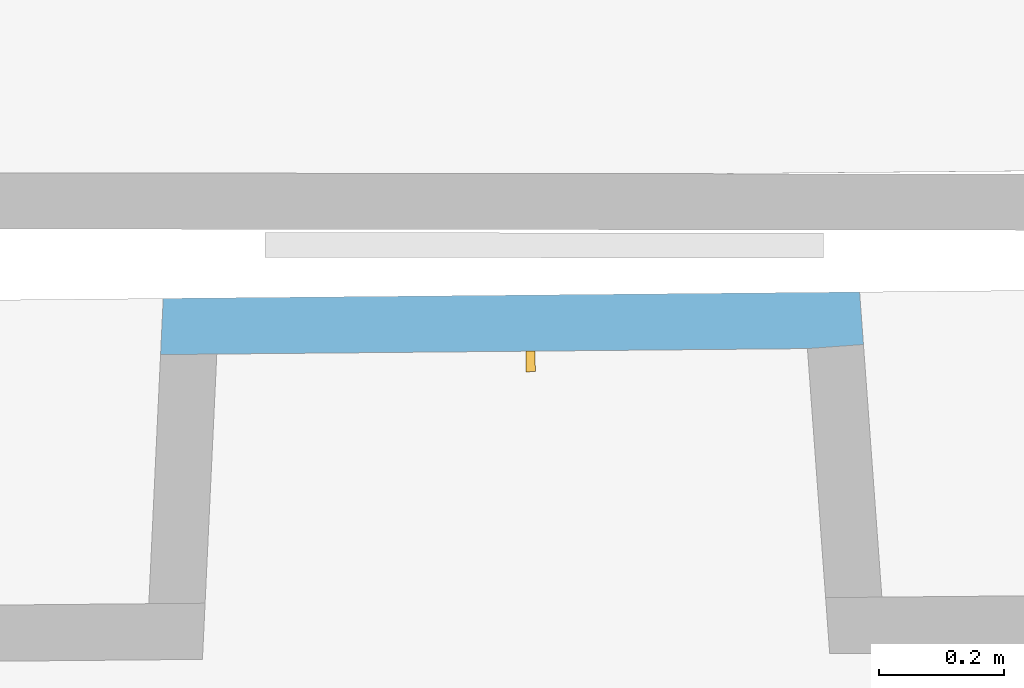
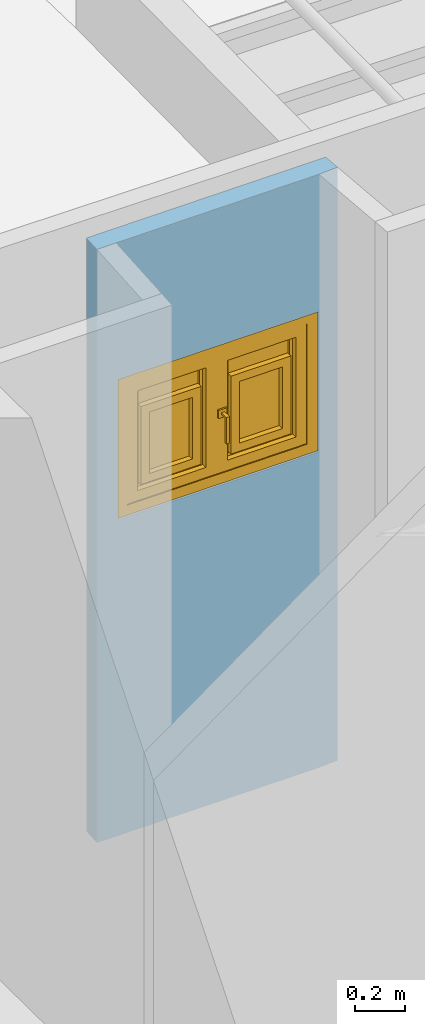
# One storey, part 105 of 133: 1 window, 1 opening, plus 1 element that does not belong to this part.
"""IFC2X3 building model written with IfcOpenShell, lengths in centimetres."""

import ifcopenshell
import ifcopenshell.guid

model = None  # the IFC model being written
_history = None  # IfcOwnerHistory: only IFC2X3 demands one
_inside = {}  # id of a spatial element -> (the spatial element, [elements in it])
_under = {}  # id of a project, library or spatial element -> (it, [spatial elements below it])
_declared = {}  # id of a project -> (the project, [libraries it declares])
_typed = {}  # id of a type object -> (the type object, [elements of that type])
_made_of = {}  # id of a material, layer set ... -> (it, [elements and type objects made of it])


def new_model(schema):
    """Start an empty IFC model of exactly this schema.

    Asked for "IFC4X3", IfcOpenShell would pick the latest addendum, in which some entities
    have other attributes; the version numbers below select the first issue.
    IFC2X3 requires an IfcOwnerHistory on every rooted entity: one is made here for all.
    """
    global model, _history
    if schema == "IFC4X3":
        model = ifcopenshell.file(schema_version=(4, 3, 0, 0))
    else:
        model = ifcopenshell.file(schema=schema)
    _inside.clear()
    _under.clear()
    _declared.clear()
    _typed.clear()
    _made_of.clear()
    _history = None
    if model.schema == "IFC2X3":
        org = make("IfcOrganization", Name="unknown")
        user = make(
            "IfcPersonAndOrganization",
            ThePerson=make("IfcPerson", FamilyName="unknown"),
            TheOrganization=org,
        )
        app = make(
            "IfcApplication",
            ApplicationDeveloper=org,
            Version="unknown",
            ApplicationFullName="unknown",
            ApplicationIdentifier="unknown",
        )
        _history = make(
            "IfcOwnerHistory",
            OwningUser=user,
            OwningApplication=app,
            ChangeAction="ADDED",
            CreationDate=0,
        )
    return model


def make(cls, **values):
    """One entity of the class cls with the attributes given. An attribute that is None is left unset."""
    return model.create_entity(
        cls, **{name: value for name, value in values.items() if value is not None}
    )


def entity(cls, *values):
    """Any entity or typed value of the class cls, its attributes in the order of the schema. None: left unset."""
    e = model.create_entity(cls)
    for i, value in enumerate(values):
        if value is not None:
            e[i] = value
    return e


def rooted(cls, **values):
    """An entity with a GlobalId (a new one), such as an element, a storey or a relation."""
    return make(cls, GlobalId=ifcopenshell.guid.new(), OwnerHistory=_history, **values)


def si_unit(unit_type, name, prefix=None):
    """IfcSIUnit, for example si_unit("LENGTHUNIT", "METRE", prefix="MILLI")."""
    return make("IfcSIUnit", UnitType=unit_type, Prefix=prefix, Name=name)


def converted_unit(unit_type, name, factor, base, dimensions=None, offset=None):
    """IfcConversionBasedUnit, such as the inch: factor (a typed value) times the base unit."""
    return make(
        "IfcConversionBasedUnit"
        if offset is None
        else "IfcConversionBasedUnitWithOffset",
        ConversionOffset=offset,
        Dimensions=None
        if dimensions is None
        else entity("IfcDimensionalExponents", *dimensions),
        UnitType=unit_type,
        Name=name,
        ConversionFactor=make(
            "IfcMeasureWithUnit", ValueComponent=factor, UnitComponent=base
        ),
    )


def assignment(units):
    """IfcUnitAssignment: the units of a project."""
    return None if units is None else make("IfcUnitAssignment", Units=units)


def point(xyz):
    """IfcCartesianPoint."""
    return None if xyz is None else make("IfcCartesianPoint", Coordinates=xyz)


def direction(xyz):
    """IfcDirection."""
    return None if xyz is None else make("IfcDirection", DirectionRatios=xyz)


def frame(location, z_axis=None, x_axis=None):
    """IfcAxis2Placement3D, a coordinate frame: its origin and axes. An axis left out is left unset."""
    return make(
        "IfcAxis2Placement3D",
        Location=point(location),
        Axis=direction(z_axis),
        RefDirection=direction(x_axis),
    )


def origin():
    """The frame at (0, 0, 0) with its axes left unset."""
    return frame((0.0, 0.0, 0.0))


def origin_with_axes():
    """The frame at (0, 0, 0) with the z axis (0, 0, 1) and the x axis (1, 0, 0) written out."""
    return frame((0.0, 0.0, 0.0), z_axis=(0.0, 0.0, 1.0), x_axis=(1.0, 0.0, 0.0))


def place(relative_to, where):
    """IfcLocalPlacement: puts the frame where relative to a parent placement (None: the world)."""
    return make(
        "IfcLocalPlacement", PlacementRelTo=relative_to, RelativePlacement=where
    )


def context(
    kind, dimensions, precision=None, world=None, true_north=None, identifier=None
):
    """IfcGeometricRepresentationContext, for example the 3D "Model" context."""
    return make(
        "IfcGeometricRepresentationContext",
        ContextIdentifier=identifier,
        ContextType=kind,
        CoordinateSpaceDimension=dimensions,
        Precision=precision,
        WorldCoordinateSystem=world,
        TrueNorth=true_north,
    )


def subcontext(parent, identifier, kind, view, scale=None):
    """IfcGeometricRepresentationSubContext, for example "Body" below "Model"."""
    return make(
        "IfcGeometricRepresentationSubContext",
        ContextIdentifier=identifier,
        ContextType=kind,
        ParentContext=parent,
        TargetScale=scale,
        TargetView=view,
    )


def project(units=None, contexts=None):
    """IfcProject with its units and contexts."""
    return rooted(
        "IfcProject",
        Name="project",
        RepresentationContexts=contexts,
        UnitsInContext=assignment(units),
    )


def spatial(cls, under=None, at=None, **own):
    """A site, building, storey or space (cls), placed at a placement, below another one or the project."""
    s = rooted(cls, ObjectPlacement=at, **own)
    if under is not None:
        _under.setdefault(under.id(), (under, []))[1].append(s)
    return s


def polyline(points):
    """IfcPolyline through the points."""
    return make("IfcPolyline", Points=[point(p) for p in points])


def outline(outer, holes=None, kind="AREA"):
    """IfcArbitraryClosedProfileDef: a profile drawn as a closed curve; with holes, ...WithVoids."""
    if holes is None:
        return make("IfcArbitraryClosedProfileDef", ProfileType=kind, OuterCurve=outer)
    return make(
        "IfcArbitraryProfileDefWithVoids",
        ProfileType=kind,
        OuterCurve=outer,
        InnerCurves=holes,
    )


def extrude(swept, where, along, depth):
    """IfcExtrudedAreaSolid: the profile swept, set in the frame where, extruded along a direction by depth."""
    return make(
        "IfcExtrudedAreaSolid",
        SweptArea=swept,
        Position=where,
        ExtrudedDirection=direction(along),
        Depth=depth,
    )


def faces_of(points, faces, orient=None, outer=None):
    """IfcFace entities. A face is a list of loops; a loop is a list of indices into points, from 0.

    orient and outer hold one flag for each loop. By default every Orientation is true, the
    first loop of a face is its IfcFaceOuterBound and the others are IfcFaceBound.
    """
    made = []
    for i, loops in enumerate(faces):
        bounds = []
        for j, loop in enumerate(loops):
            is_outer = j == 0 if outer is None else outer[i][j]
            bounds.append(
                make(
                    "IfcFaceOuterBound" if is_outer else "IfcFaceBound",
                    Bound=make("IfcPolyLoop", Polygon=[points[k] for k in loop]),
                    Orientation=True if orient is None else orient[i][j],
                )
            )
        made.append(make("IfcFace", Bounds=bounds))
    return made


def faceted_brep(points, faces, orient=None, outer=None, voids=None):
    """IfcFacetedBrep: a solid bounded by flat faces; with voids (closed shells), ...WithVoids."""
    shared = [point(p) for p in points]
    hull = make("IfcClosedShell", CfsFaces=faces_of(shared, faces, orient, outer))
    if voids is None:
        return make("IfcFacetedBrep", Outer=hull)
    return make(
        "IfcFacetedBrepWithVoids",
        Outer=hull,
        Voids=[
            make(cls, CfsFaces=faces_of(shared, fs, o, b)) for cls, fs, o, b in voids
        ],
    )


def shape(context_of_items, identifier, shape_type, items):
    """IfcShapeRepresentation: the items that make up one representation, for example the "Body"."""
    return make(
        "IfcShapeRepresentation",
        ContextOfItems=context_of_items,
        RepresentationIdentifier=identifier,
        RepresentationType=shape_type,
        Items=items,
    )


def source(mapping_origin, context_of_items, identifier, shape_type, items):
    """IfcRepresentationMap: a shape defined once, which mapped items show again and again."""
    return make(
        "IfcRepresentationMap",
        MappingOrigin=mapping_origin,
        MappedRepresentation=shape(context_of_items, identifier, shape_type, items),
    )


def transform(
    local_origin,
    x_axis=None,
    y_axis=None,
    z_axis=None,
    scale=None,
    scale2=None,
    scale3=None,
    uniform=True,
):
    """IfcCartesianTransformationOperator3D, or its non-uniform kind. x_axis, y_axis, z_axis: its Axis1, 2, 3."""
    if uniform:
        return make(
            "IfcCartesianTransformationOperator3D",
            Axis1=direction(x_axis),
            Axis2=direction(y_axis),
            LocalOrigin=point(local_origin),
            Scale=scale,
            Axis3=direction(z_axis),
        )
    return make(
        "IfcCartesianTransformationOperator3DnonUniform",
        Axis1=direction(x_axis),
        Axis2=direction(y_axis),
        LocalOrigin=point(local_origin),
        Scale=scale,
        Axis3=direction(z_axis),
        Scale2=scale2,
        Scale3=scale3,
    )


def mapped(mapping_source, mapping_target):
    """IfcMappedItem: shows the shape of a source again, moved by a transform."""
    return make(
        "IfcMappedItem", MappingSource=mapping_source, MappingTarget=mapping_target
    )


def material(Name=None, Category=None):
    """IfcMaterial."""
    return make("IfcMaterial", Name=Name, Category=Category)


def material_list(materials):
    """IfcMaterialList."""
    return make("IfcMaterialList", Materials=materials)


def layer(
    of_material, thickness, ventilated=None, Name=None, Category=None, Priority=None
):
    """IfcMaterialLayer: one layer of a wall or slab, of a material (None: an air gap)."""
    return make(
        "IfcMaterialLayer",
        Material=of_material,
        LayerThickness=thickness,
        IsVentilated=ventilated,
        Name=Name,
        Category=Category,
        Priority=Priority,
    )


def layer_set(layers, Name=None):
    """IfcMaterialLayerSet."""
    return make("IfcMaterialLayerSet", MaterialLayers=layers, LayerSetName=Name)


def layer_usage(for_layer_set, set_direction, sense, offset, extent=None):
    """IfcMaterialLayerSetUsage: how a layer set lies in its element."""
    return make(
        "IfcMaterialLayerSetUsage",
        ForLayerSet=for_layer_set,
        LayerSetDirection=set_direction,
        DirectionSense=sense,
        OffsetFromReferenceLine=offset,
        ReferenceExtent=extent,
    )


def made_of(thing, what):
    """Note that an element or type object is made of a material, layer set ...; save() writes the relation."""
    if what is not None:
        _made_of.setdefault(what.id(), (what, []))[1].append(thing)
    return thing


def type_object(cls, material=None, **own):
    """A type object (cls), such as IfcWallType, which elements share."""
    return made_of(rooted(cls, **own), material)


def element(
    cls,
    number,
    at=None,
    inside=None,
    cuts=None,
    type_object=None,
    material=None,
    context=None,
    identifier="Body",
    shape_type=None,
    held_by="IfcProductDefinitionShape",
    body=None,
    shapes=None,
    **own,
):
    """One element of the class cls, such as IfcWall. Its Tag is "e" and its number.

    at: its placement. inside: the storey or other place that contains it. cuts: it is an
    opening in that element (IfcRelVoidsElement). A single representation is given by context,
    identifier, shape_type and body (its items); several are given by shapes. held_by: the class
    of the entity that holds the representations. save() writes the other relations.
    """
    e = rooted(cls, Tag="e%d" % number, ObjectPlacement=at, **own)
    if body is not None:
        shapes = [shape(context, identifier, shape_type, body)]
    if shapes is not None:
        e.Representation = make(held_by, Representations=shapes)
    if inside is not None:
        _inside.setdefault(inside.id(), (inside, []))[1].append(e)
    if cuts is not None:
        rooted(
            "IfcRelVoidsElement", RelatingBuildingElement=cuts, RelatedOpeningElement=e
        )
    if type_object is not None:
        _typed.setdefault(type_object.id(), (type_object, []))[1].append(e)
    return made_of(e, material)


def fill(opening, filler):
    """IfcRelFillsElement: the door or window that sits in an opening."""
    return rooted(
        "IfcRelFillsElement",
        RelatingOpeningElement=opening,
        RelatedBuildingElement=filler,
    )


def aggregate(whole, parts):
    """IfcRelAggregates: a whole, such as a stair, and the parts it consists of."""
    return rooted("IfcRelAggregates", RelatingObject=whole, RelatedObjects=parts)


def save(model, path):
    """Write the relations noted so far, then the file.

    IfcRelAggregates (storeys below a building ...), IfcRelContainedInSpatialStructure (elements
    in a storey), IfcRelDefinesByType, IfcRelAssociatesMaterial and IfcRelDeclares: one each for
    every whole, place, type object, material and project.
    """
    for whole, parts in _under.values():
        aggregate(whole, parts)
    for where, things in _inside.values():
        rooted(
            "IfcRelContainedInSpatialStructure",
            RelatedElements=things,
            RelatingStructure=where,
        )
    for kind, things in _typed.values():
        rooted("IfcRelDefinesByType", RelatedObjects=things, RelatingType=kind)
    for what, things in _made_of.values():
        rooted("IfcRelAssociatesMaterial", RelatedObjects=things, RelatingMaterial=what)
    for by, libraries in _declared.values():
        rooted("IfcRelDeclares", RelatingContext=by, RelatedDefinitions=libraries)
    model.write(path)


model = new_model("IFC2X3")

# Units and contexts
model_context = context("Model", 3, precision=0.0001, world=origin(), true_north=direction((0.225632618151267, 0.974212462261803, 0.0)))
body_context = subcontext(model_context, "Body", "Model", "MODEL_VIEW")
footprint_context = subcontext(model_context, "FootPrint", "Model", "MODEL_VIEW")
profile_context = subcontext(model_context, "Profile", "Model", "MODEL_VIEW")
ifc_project = project(units=[si_unit("LENGTHUNIT", "METRE", prefix="CENTI"), si_unit("AREAUNIT", "SQUARE_METRE", prefix="CENTI"), si_unit("VOLUMEUNIT", "CUBIC_METRE", prefix="CENTI"), converted_unit("PLANEANGLEUNIT", "DEGREE", entity("IfcRatioMeasure", 0.0174532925), si_unit("PLANEANGLEUNIT", "RADIAN"), dimensions=[0, 0, 0, 0, 0, 0, 0])], contexts=[model_context])

# Site, building, storey
site_placement = place(None, origin_with_axes())
site = spatial("IfcSite", under=ifc_project, at=site_placement, Name="Default Site", CompositionType="ELEMENT")
building_placement = place(site_placement, origin_with_axes())
building = spatial("IfcBuilding", under=site, at=building_placement, Name="Default Building", CompositionType="ELEMENT")
storey_placement = place(building_placement, frame((0.0, 0.0, -291.400371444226), z_axis=(0.0, 0.0, 1.0), x_axis=(1.0, 0.0, 0.0)))
storey = spatial("IfcBuildingStorey", under=building, at=storey_placement, Name="Rez-de-Jardin", CompositionType="ELEMENT", Elevation=-291.400371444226)

# Wall, opening, window
ifc_material_1 = material(Name="<aucun>")
ifc_layer = layer(ifc_material_1, 9.0)
ifc_layer_set = layer_set([ifc_layer], Name="default")
ifc_layer_usage = layer_usage(ifc_layer_set, "AXIS2", "POSITIVE", -4.5)
wall_type = type_object("IfcWallType", Name="default 90", PredefinedType="NOTDEFINED", material=ifc_layer_set)
wall_placement = place(storey_placement, frame((-561.157868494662, 594.677740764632, -1.94511073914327e-11), z_axis=(0.0, 0.0, 1.0), x_axis=(0.99995701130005, 0.00927230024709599, 0.0)))
wall = element("IfcWallStandardCase", 1, at=wall_placement, inside=storey, type_object=wall_type, material=ifc_layer_usage, Name="Enveloppe 579508", context=body_context, shape_type="SweptSolid", body=[
    extrude(outline(polyline([(-4.76066961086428, -4.50000000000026), (98.9491253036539, -4.49999999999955), (107.930924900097, -3.92791957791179), (107.394122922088, 4.50000000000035), (-4.25360330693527, 4.49999999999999), (-4.76066961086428, -4.50000000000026)])), frame((0.0, 0.0, 1.33226762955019e-13), z_axis=(0.0, 0.0, 1.0), x_axis=(1.0, 0.0, 0.0)), (0.0, 0.0, 1.0), 291.413221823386),
])
opening_placement = place(wall_placement, frame((5.01066961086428, 1.13686837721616e-13, 155.000000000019), z_axis=(0.0, 0.0, 1.0), x_axis=(-1.0, -4.15292800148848e-15, 0.0)))
cartesian_point_1 = entity("IfcCartesianPoint", [0.0, 0.0, 69.0])
cartesian_point_2 = entity("IfcCartesianPoint", [-94.0555910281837, -4.49999999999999])
opening = element("IfcOpeningElement", 2, at=opening_placement, cuts=wall, Name="4294966466_11", ObjectType="Opening", shapes=[
    shape(body_context, "Body", "SweptSolid", [extrude(outline(polyline([(8.88178419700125e-14, 69.0), (8.88178419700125e-14, 0.0), (94.0555910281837, 0.0), (94.0555910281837, 69.0), (8.88178419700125e-14, 69.0)])), frame((0.0, -14.5, 0.0), z_axis=(0.0, 1.0, 0.0), x_axis=(-1.0, 0.0, 0.0)), (0.0, 0.0, 1.0), 29.0)]),
    shape(profile_context, "Profile", "GeometricCurveSet", [entity("IfcGeometricCurveSet", [entity("IfcPolyline", [cartesian_point_1, entity("IfcCartesianPoint", [0.0, 0.0, 0.0]), entity("IfcCartesianPoint", [-94.0555910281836, 0.0, 0.0]), entity("IfcCartesianPoint", [-94.0555910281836, 0.0, 69.0]), cartesian_point_1])])]),
    shape(footprint_context, "FootPrint", "GeometricCurveSet", [entity("IfcGeometricCurveSet", [entity("IfcPolyline", [cartesian_point_2, entity("IfcCartesianPoint", [-8.88178419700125e-14, -4.49999999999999]), entity("IfcCartesianPoint", [0.0, 4.49999999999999]), entity("IfcCartesianPoint", [-94.0555910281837, 4.49999999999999]), cartesian_point_2])])]),
])
ifc_material_2 = material(Name="Transparent")
ifc_material_3 = material(Name="Blanc trafic")
ifc_material_4 = material(Name="Aluminium satiné")
ifc_material_list = material_list([ifc_material_2, ifc_material_3, ifc_material_4])
window_style = type_object("IfcWindowStyle", Name="FN[R] 2VB[1V] MM", ConstructionType="NOTDEFINED", OperationType="NOTDEFINED", ParameterTakesPrecedence=False, Sizeable=False, material=ifc_material_list)
shared_shape = source(origin_with_axes(), body_context, "Body", "Brep", [
    faceted_brep([(-42.0277953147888, 63.9999985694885, -3.99999991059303), (-42.0277953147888, 63.9999985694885, 3.99999991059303), (-42.0277953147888, 5.00000007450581, 3.99999991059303), (-42.0277953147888, 5.00000007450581, -3.99999991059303), (-47.0277965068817, 68.9999997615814, 3.99999991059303), (-47.0277965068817, 0.0, 3.99999991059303), (-47.0277965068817, 68.9999997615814, -3.99999991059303), (-47.0277965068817, 4.4659245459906e-31, -3.99999991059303), (-47.0277965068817, 4.4659245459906e-31, 3.99999991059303), (-47.0277965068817, 0.0, -3.99999991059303), (42.0277953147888, 5.00000007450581, 3.99999991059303), (42.0277953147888, 5.00000007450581, -3.99999991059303), (47.0277965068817, 0.0, 3.99999991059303), (47.0277965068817, 0.0, -3.99999991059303), (42.0277953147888, 63.9999985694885, 3.99999991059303), (42.0277953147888, 63.9999985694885, -3.99999991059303), (47.0277965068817, 68.9999997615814, 3.99999991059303), (47.0277965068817, 68.9999997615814, -3.99999991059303)], [[[0, 1, 2, 3]], [[1, 4, 5, 2]], [[4, 6, 7, 8]], [[6, 0, 3, 9]], [[3, 2, 10, 11]], [[2, 5, 12, 10]], [[5, 9, 13, 12]], [[9, 3, 11, 13]], [[11, 10, 14, 15]], [[10, 12, 16, 14]], [[12, 13, 17, 16]], [[13, 11, 15, 17]], [[15, 14, 1, 0]], [[14, 16, 4, 1]], [[16, 17, 6, 4]], [[17, 15, 0, 6]]]),
    faceted_brep([(-38.0277961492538, 60.0000023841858, -3.50000001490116), (-37.0277951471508, 58.9999973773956, -2.49999901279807), (-37.0277951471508, 10.0000001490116, -2.49999901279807), (-38.0277961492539, 9.00000035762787, -3.50000001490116), (-37.0277941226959, 58.9999973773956, -2.5000000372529), (-37.0277941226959, 58.9999973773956, 3.50000001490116), (-37.0277941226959, 10.0000001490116, 3.50000001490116), (-37.0277941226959, 10.0000001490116, -2.5000000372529), (-42.0277953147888, 63.9999985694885, 3.50000001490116), (-42.0277953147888, 5.00000007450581, 3.50000001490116), (-42.0277953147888, 63.9999985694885, -3.50000001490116), (-42.0277953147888, 5.00000007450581, -3.50000001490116), (-37.0277941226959, 10.0000002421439, -2.50000013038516), (-5.00000007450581, 10.0000002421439, -2.50000013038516), (-3.99999991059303, 9.00000035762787, -3.50000001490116), (-5.00000007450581, 10.0000001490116, 3.50000001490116), (-5.00000007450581, 10.0000001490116, -2.5000000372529), (-1.66533453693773e-14, 5.00000007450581, 3.50000001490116), (-1.66533453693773e-14, 5.00000007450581, -3.50000001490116), (-4.99999998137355, 10.0000001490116, -2.49999994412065), (-4.99999998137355, 58.9999973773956, -2.49999994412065), (-3.99999991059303, 60.0000023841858, -3.50000001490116), (-5.00000007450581, 58.9999973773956, 3.50000001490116), (-5.00000007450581, 58.9999973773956, -2.5000000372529), (-1.11022302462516e-14, 63.9999985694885, 3.50000001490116), (-1.11022302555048e-14, 63.9999985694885, -3.50000001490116), (-1.11022302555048e-14, 63.9999985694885, 3.50000001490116), (-1.11022302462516e-14, 63.9999985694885, -3.50000001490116), (-5.00000007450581, 58.9999998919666, -2.49999752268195), (-37.0277941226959, 58.9999998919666, -2.49999752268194), (-38.0277961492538, 60.0000023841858, -3.50000001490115)], [[[0, 1, 2, 3]], [[4, 5, 6, 7]], [[5, 8, 9, 6]], [[8, 10, 11, 9]], [[10, 0, 3, 11]], [[3, 12, 13, 14]], [[7, 6, 15, 16]], [[6, 9, 17, 15]], [[9, 11, 18, 17]], [[11, 3, 14, 18]], [[14, 19, 20, 21]], [[16, 15, 22, 23]], [[15, 17, 24, 22]], [[17, 18, 25, 26]], [[18, 14, 21, 27]], [[21, 28, 29, 30]], [[23, 22, 5, 4]], [[22, 24, 8, 5]], [[24, 27, 10, 8]], [[27, 21, 0, 10]]]),
    faceted_brep([(-35.5277955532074, 57.4999988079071, -0.999999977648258), (-35.0277957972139, 56.9999992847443, -0.500000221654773), (-35.0277957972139, 11.9999997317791, -0.500000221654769), (-35.5277955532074, 11.5000002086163, -0.999999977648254), (-35.0277960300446, 56.9999992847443, -0.499999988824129), (-35.0277960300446, 56.9999992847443, 0.499999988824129), (-35.0277960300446, 11.9999997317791, 0.499999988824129), (-35.0277960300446, 11.9999997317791, -0.499999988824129), (-35.527795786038, 57.4999988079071, 0.999999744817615), (-35.527795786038, 11.5000002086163, 0.999999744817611), (-35.0277960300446, 11.9999997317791, 0.499999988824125), (-35.5277955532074, 57.4999988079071, 0.999999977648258), (-37.0277941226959, 58.9999973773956, 0.999999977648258), (-37.0277941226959, 10.0000001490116, 0.999999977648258), (-35.5277955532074, 11.5000002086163, 0.999999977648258), (-37.0277941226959, 58.9999973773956, -0.999999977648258), (-37.0277941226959, 10.0000001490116, -0.999999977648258), (-35.5277955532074, 11.5000002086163, -0.999999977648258), (-35.0277960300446, 11.9999999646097, -0.500000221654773), (-7.00000002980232, 11.9999999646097, -0.500000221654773), (-6.49999976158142, 11.5000002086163, -0.999999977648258), (-7.00000002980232, 11.9999997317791, 0.499999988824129), (-7.00000002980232, 11.9999997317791, -0.499999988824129), (-35.5277955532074, 11.4999999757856, 0.999999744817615), (-6.49999976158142, 11.4999999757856, 0.999999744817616), (-7.00000002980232, 11.9999997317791, 0.499999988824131), (-5.00000007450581, 10.0000001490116, 0.999999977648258), (-6.49999976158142, 11.5000002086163, 0.999999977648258), (-5.00000007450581, 10.0000001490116, -0.999999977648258), (-6.99999989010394, 11.9999997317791, -0.499999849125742), (-6.99999989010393, 56.9999992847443, -0.49999984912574), (-6.49999976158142, 57.4999988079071, -0.999999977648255), (-7.00000002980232, 56.9999992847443, 0.499999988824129), (-7.00000002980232, 56.9999992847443, -0.499999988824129), (-6.49999990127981, 11.5000002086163, 1.00000011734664), (-6.4999999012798, 57.4999988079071, 1.00000011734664), (-7.00000002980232, 56.9999992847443, 0.499999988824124), (-5.00000007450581, 58.9999973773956, 0.999999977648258), (-6.49999976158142, 57.4999988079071, 0.999999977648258), (-5.0000000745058, 58.9999973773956, -0.999999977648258), (-5.0000000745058, 58.9999973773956, 0.999999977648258), (-6.49999976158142, 57.4999988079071, -0.999999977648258), (-5.00000007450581, 58.9999973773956, -0.999999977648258), (-7.00000002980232, 56.9999990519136, -0.500000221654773), (-35.0277960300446, 56.9999990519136, -0.500000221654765), (-35.5277955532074, 57.4999988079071, -0.99999997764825), (-6.49999976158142, 57.4999990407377, 0.999999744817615), (-35.5277955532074, 57.4999990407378, 0.999999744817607), (-35.0277960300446, 56.9999992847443, 0.499999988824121)], [[[0, 1, 2, 3]], [[4, 5, 6, 7]], [[5, 8, 9, 10]], [[11, 12, 13, 14]], [[12, 15, 16, 13]], [[15, 0, 17, 16]], [[17, 18, 19, 20]], [[7, 6, 21, 22]], [[6, 23, 24, 25]], [[14, 13, 26, 27]], [[13, 16, 28, 26]], [[16, 17, 20, 28]], [[20, 29, 30, 31]], [[22, 21, 32, 33]], [[21, 34, 35, 36]], [[27, 26, 37, 38]], [[26, 28, 39, 40]], [[28, 20, 41, 42]], [[41, 43, 44, 45]], [[33, 32, 5, 4]], [[32, 46, 47, 48]], [[38, 37, 12, 11]], [[37, 42, 15, 12]], [[42, 41, 0, 15]]]),
    faceted_brep([(-7.00000002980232, 56.9999992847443, -0.499999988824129), (-7.00000002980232, 50.2499997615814, -0.499999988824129), (-35.0277960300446, 50.2499997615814, -0.499999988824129), (-35.0277960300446, 56.9999992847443, -0.499999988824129), (-35.0277960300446, 56.9999992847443, 0.499999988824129), (-35.0277960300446, 50.2499997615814, 0.499999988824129), (-7.00000002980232, 50.2499997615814, 0.499999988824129), (-7.00000002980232, 56.9999992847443, 0.499999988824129)], [[[0, 1, 2, 3]], [[4, 5, 6, 7]], [[3, 2, 5, 4]], [[2, 1, 6, 5]], [[1, 0, 7, 6]], [[0, 3, 4, 7]]]),
    faceted_brep([(-31.0277968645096, 46.2500005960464, -2.99999993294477), (-31.0277968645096, 46.2500005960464, 2.99999993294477), (-31.0277968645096, 15.9999996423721, 2.99999993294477), (-31.0277968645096, 15.9999996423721, -2.99999993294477), (-35.0277960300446, 50.2499997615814, 2.99999993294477), (-35.0277960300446, 11.9999997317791, 2.99999993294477), (-35.0277960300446, 50.2499997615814, -2.99999993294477), (-35.0277960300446, 11.9999997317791, -2.99999993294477), (-10.9999999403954, 15.9999996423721, 2.99999993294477), (-10.9999999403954, 15.9999996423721, -2.99999993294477), (-7.00000002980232, 11.9999997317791, 2.99999993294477), (-7.00000002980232, 11.9999997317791, -2.99999993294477), (-10.9999999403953, 46.2500005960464, 2.99999993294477), (-10.9999999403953, 46.2500005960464, -2.99999993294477), (-7.00000002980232, 50.2499997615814, 2.99999993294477), (-7.00000002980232, 50.2499997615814, -2.99999993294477)], [[[0, 1, 2, 3]], [[1, 4, 5, 2]], [[4, 6, 7, 5]], [[6, 0, 3, 7]], [[3, 2, 8, 9]], [[2, 5, 10, 8]], [[5, 7, 11, 10]], [[7, 3, 9, 11]], [[9, 8, 12, 13]], [[8, 10, 14, 12]], [[10, 11, 15, 14]], [[11, 9, 13, 15]], [[13, 12, 1, 0]], [[12, 14, 4, 1]], [[14, 15, 6, 4]], [[15, 13, 0, 6]]]),
    faceted_brep([(-10.9999999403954, 46.2500005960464, -0.499999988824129), (-10.9999999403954, 15.9999996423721, -0.499999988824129), (-31.0277968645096, 15.9999996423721, -0.499999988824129), (-31.0277968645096, 46.2500005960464, -0.499999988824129), (-31.0277968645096, 46.2500005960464, 0.499999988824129), (-31.0277968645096, 15.9999996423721, 0.499999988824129), (-10.9999999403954, 15.9999996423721, 0.499999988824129), (-10.9999999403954, 46.2500005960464, 0.499999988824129)], [[[0, 1, 2, 3]], [[4, 5, 6, 7]], [[3, 2, 5, 4]], [[2, 1, 6, 5]], [[1, 0, 7, 6]], [[0, 3, 4, 7]]]),
    faceted_brep([(3.99999991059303, 60.0000023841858, -3.50000001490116), (4.99999998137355, 58.9999973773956, -2.49999994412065), (4.99999998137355, 10.0000001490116, -2.49999994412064), (3.99999991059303, 9.00000035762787, -3.50000001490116), (5.00000007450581, 58.9999973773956, -2.5000000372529), (5.00000007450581, 58.9999973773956, 3.50000001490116), (5.0000000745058, 10.0000001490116, 3.50000001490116), (5.0000000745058, 10.0000001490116, -2.5000000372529), (-1.11022302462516e-14, 63.9999985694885, 3.50000001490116), (-1.66533453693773e-14, 5.00000007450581, 3.50000001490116), (5.00000007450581, 10.0000001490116, 3.50000001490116), (-1.11022302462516e-14, 63.9999985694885, -3.50000001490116), (-1.66533453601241e-14, 5.00000007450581, -3.50000001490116), (-1.66533453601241e-14, 5.00000007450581, 3.50000001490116), (-1.66533453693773e-14, 5.00000007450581, -3.50000001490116), (5.00000007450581, 10.0000002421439, -2.50000013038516), (37.0277941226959, 10.0000002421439, -2.50000013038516), (38.0277961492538, 9.00000035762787, -3.50000001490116), (5.00000007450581, 10.0000001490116, -2.5000000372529), (37.0277941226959, 10.0000001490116, 3.50000001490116), (37.0277941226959, 10.0000001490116, -2.5000000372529), (42.0277953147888, 5.00000007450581, 3.50000001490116), (42.0277953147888, 5.00000007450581, -3.50000001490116), (37.0277951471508, 10.0000001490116, -2.49999901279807), (37.0277951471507, 58.9999973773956, -2.49999901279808), (38.0277961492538, 60.0000023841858, -3.50000001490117), (37.0277941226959, 58.9999973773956, 3.50000001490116), (37.0277941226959, 58.9999973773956, -2.5000000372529), (42.0277953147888, 63.9999985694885, 3.50000001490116), (42.0277953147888, 63.9999985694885, -3.50000001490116), (38.0277961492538, 60.0000023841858, -3.50000001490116), (37.0277941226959, 58.9999998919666, -2.49999752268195), (5.00000007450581, 58.9999998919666, -2.49999752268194), (3.99999991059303, 60.0000023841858, -3.50000001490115)], [[[0, 1, 2, 3]], [[4, 5, 6, 7]], [[5, 8, 9, 10]], [[8, 11, 12, 13]], [[11, 0, 3, 14]], [[3, 15, 16, 17]], [[18, 10, 19, 20]], [[10, 9, 21, 19]], [[9, 14, 22, 21]], [[14, 3, 17, 22]], [[17, 23, 24, 25]], [[20, 19, 26, 27]], [[19, 21, 28, 26]], [[21, 22, 29, 28]], [[22, 17, 30, 29]], [[30, 31, 32, 33]], [[27, 26, 5, 4]], [[26, 28, 8, 5]], [[28, 29, 11, 8]], [[29, 30, 0, 11]]]),
    faceted_brep([(4.50000017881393, 36.5000009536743, 3.50000001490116), (4.50000017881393, 32.4999988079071, 3.50000001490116), (0.499999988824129, 32.4999988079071, 3.50000001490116), (0.499999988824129, 36.5000009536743, 3.50000001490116), (0.499999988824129, 36.5000009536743, 4.30000014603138), (0.499999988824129, 32.4999988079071, 4.30000014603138), (4.50000017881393, 32.4999988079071, 4.30000014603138), (4.50000017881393, 36.5000009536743, 4.30000014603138)], [[[0, 1, 2, 3]], [[4, 5, 6, 7]], [[3, 2, 5, 4]], [[2, 1, 6, 5]], [[1, 0, 7, 6]], [[0, 3, 4, 7]]]),
    faceted_brep([(3.24999988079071, 34.9999994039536, 4.30000014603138), (3.24999988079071, 34.0000003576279, 4.30000014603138), (1.75000000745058, 34.0000003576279, 4.30000014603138), (1.75000000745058, 34.9999994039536, 4.30000014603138), (1.75000000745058, 34.9999994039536, 8.29999968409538), (1.75000000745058, 33.9999999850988, 7.30000026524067), (3.24999988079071, 33.9999999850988, 7.30000026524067), (3.24999988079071, 34.9999994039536, 8.29999968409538), (1.75000000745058, 34.0000003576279, 7.29999989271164), (3.24999988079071, 34.0000003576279, 7.29999989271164)], [[[0, 1, 2, 3]], [[4, 5, 6, 7]], [[3, 2, 8, 4]], [[2, 1, 9, 8]], [[1, 0, 7, 9]], [[0, 3, 4, 7]]]),
    faceted_brep([(3.24999988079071, 34.9999994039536, 8.29999968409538), (3.24999988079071, 33.9999999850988, 7.30000026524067), (1.75000000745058, 33.9999999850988, 7.30000026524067), (1.75000000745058, 34.9999994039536, 8.29999968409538), (1.75000000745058, 21.9999998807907, 8.29999968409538), (1.75000000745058, 21.9999998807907, 7.29999989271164), (3.24999988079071, 21.9999998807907, 7.29999989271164), (3.24999988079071, 21.9999998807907, 8.29999968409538), (1.75000000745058, 34.0000003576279, 7.29999989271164), (3.24999988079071, 34.0000003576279, 7.29999989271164)], [[[0, 1, 2, 3]], [[4, 5, 6, 7]], [[3, 8, 5, 4]], [[8, 9, 6, 5]], [[9, 0, 7, 6]], [[0, 3, 4, 7]]]),
    faceted_brep([(6.49999976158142, 57.4999988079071, -0.999999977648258), (6.99999989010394, 56.9999992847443, -0.499999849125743), (6.99999989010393, 11.9999997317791, -0.49999984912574), (6.49999976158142, 11.5000002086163, -0.999999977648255), (7.00000002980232, 56.9999992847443, -0.499999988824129), (7.00000002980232, 56.9999992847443, 0.499999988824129), (7.00000002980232, 11.9999997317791, 0.499999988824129), (7.00000002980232, 11.9999997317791, -0.499999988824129), (6.49999990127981, 57.4999988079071, 1.00000011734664), (6.4999999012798, 11.5000002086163, 1.00000011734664), (7.00000002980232, 11.9999997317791, 0.499999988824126), (6.49999976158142, 57.4999988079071, 0.999999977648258), (5.00000007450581, 58.9999973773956, 0.999999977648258), (5.00000007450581, 10.0000001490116, 0.999999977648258), (6.49999976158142, 11.5000002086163, 0.999999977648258), (5.00000007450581, 58.9999973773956, -0.999999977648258), (5.0000000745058, 10.0000001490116, -0.999999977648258), (5.0000000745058, 10.0000001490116, 0.999999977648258), (6.49999976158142, 11.5000002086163, -0.999999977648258), (5.00000007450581, 10.0000001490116, -0.999999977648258), (7.00000002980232, 11.9999999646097, -0.500000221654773), (35.0277960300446, 11.9999999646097, -0.500000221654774), (35.5277955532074, 11.5000002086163, -0.999999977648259), (35.0277960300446, 11.9999997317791, 0.499999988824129), (35.0277960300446, 11.9999997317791, -0.499999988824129), (6.49999976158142, 11.4999999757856, 0.999999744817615), (35.5277955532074, 11.4999999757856, 0.999999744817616), (35.0277960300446, 11.9999997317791, 0.499999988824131), (37.0277941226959, 10.0000001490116, 0.999999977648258), (35.5277955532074, 11.5000002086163, 0.999999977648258), (37.0277941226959, 10.0000001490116, -0.999999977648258), (35.5277955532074, 11.5000002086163, -0.999999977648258), (35.0277957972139, 11.9999997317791, -0.500000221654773), (35.0277957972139, 56.9999992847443, -0.500000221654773), (35.5277955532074, 57.4999988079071, -0.999999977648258), (35.0277960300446, 56.9999992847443, 0.499999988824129), (35.0277960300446, 56.9999992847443, -0.499999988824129), (35.527795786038, 11.5000002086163, 0.999999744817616), (35.527795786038, 57.4999988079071, 0.999999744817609), (35.0277960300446, 56.9999992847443, 0.499999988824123), (37.0277941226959, 58.9999973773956, 0.999999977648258), (35.5277955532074, 57.4999988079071, 0.999999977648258), (37.0277941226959, 58.9999973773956, -0.999999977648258), (35.0277960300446, 56.9999990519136, -0.500000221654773), (7.00000002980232, 56.9999990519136, -0.500000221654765), (6.49999976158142, 57.4999988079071, -0.99999997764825), (35.5277955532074, 57.4999990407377, 0.999999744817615), (6.49999976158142, 57.4999990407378, 0.999999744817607), (7.00000002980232, 56.9999992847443, 0.499999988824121)], [[[0, 1, 2, 3]], [[4, 5, 6, 7]], [[5, 8, 9, 10]], [[11, 12, 13, 14]], [[12, 15, 16, 17]], [[15, 0, 18, 19]], [[18, 20, 21, 22]], [[7, 6, 23, 24]], [[6, 25, 26, 27]], [[14, 13, 28, 29]], [[13, 19, 30, 28]], [[19, 18, 31, 30]], [[31, 32, 33, 34]], [[24, 23, 35, 36]], [[23, 37, 38, 39]], [[29, 28, 40, 41]], [[28, 30, 42, 40]], [[30, 31, 34, 42]], [[34, 43, 44, 45]], [[36, 35, 5, 4]], [[35, 46, 47, 48]], [[41, 40, 12, 11]], [[40, 42, 15, 12]], [[42, 34, 0, 15]]]),
    faceted_brep([(35.0277960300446, 56.9999992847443, -0.499999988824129), (35.0277960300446, 50.2499997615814, -0.499999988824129), (7.00000002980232, 50.2499997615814, -0.499999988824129), (7.00000002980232, 56.9999992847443, -0.499999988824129), (7.00000002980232, 56.9999992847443, 0.499999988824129), (7.00000002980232, 50.2499997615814, 0.499999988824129), (35.0277960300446, 50.2499997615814, 0.499999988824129), (35.0277960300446, 56.9999992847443, 0.499999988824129)], [[[0, 1, 2, 3]], [[4, 5, 6, 7]], [[3, 2, 5, 4]], [[2, 1, 6, 5]], [[1, 0, 7, 6]], [[0, 3, 4, 7]]]),
    faceted_brep([(10.9999999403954, 46.2500005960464, -2.99999993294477), (10.9999999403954, 46.2500005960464, 2.99999993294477), (10.9999999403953, 15.9999996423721, 2.99999993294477), (10.9999999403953, 15.9999996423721, -2.99999993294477), (7.00000002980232, 50.2499997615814, 2.99999993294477), (7.00000002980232, 11.9999997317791, 2.99999993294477), (10.9999999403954, 15.9999996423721, 2.99999993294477), (7.00000002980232, 50.2499997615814, -2.99999993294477), (7.00000002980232, 11.9999997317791, -2.99999993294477), (10.9999999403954, 15.9999996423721, -2.99999993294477), (31.0277968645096, 15.9999996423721, 2.99999993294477), (31.0277968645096, 15.9999996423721, -2.99999993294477), (35.0277960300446, 11.9999997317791, 2.99999993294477), (35.0277960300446, 11.9999997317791, -2.99999993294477), (31.0277968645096, 46.2500005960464, 2.99999993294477), (31.0277968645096, 46.2500005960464, -2.99999993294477), (35.0277960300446, 50.2499997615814, 2.99999993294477), (35.0277960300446, 50.2499997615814, -2.99999993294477)], [[[0, 1, 2, 3]], [[1, 4, 5, 6]], [[4, 7, 8, 5]], [[7, 0, 9, 8]], [[9, 6, 10, 11]], [[6, 5, 12, 10]], [[5, 8, 13, 12]], [[8, 9, 11, 13]], [[11, 10, 14, 15]], [[10, 12, 16, 14]], [[12, 13, 17, 16]], [[13, 11, 15, 17]], [[15, 14, 1, 0]], [[14, 16, 4, 1]], [[16, 17, 7, 4]], [[17, 15, 0, 7]]]),
    faceted_brep([(31.0277968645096, 46.2500005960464, -0.499999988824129), (31.0277968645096, 15.9999996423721, -0.499999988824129), (10.9999999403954, 15.9999996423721, -0.499999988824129), (10.9999999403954, 46.2500005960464, -0.499999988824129), (10.9999999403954, 46.2500005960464, 0.499999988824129), (10.9999999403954, 15.9999996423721, 0.499999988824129), (31.0277968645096, 15.9999996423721, 0.499999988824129), (31.0277968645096, 46.2500005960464, 0.499999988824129), (10.9999999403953, 15.9999996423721, -0.499999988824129), (10.9999999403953, 15.9999996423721, 0.499999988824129)], [[[0, 1, 2, 3]], [[4, 5, 6, 7]], [[3, 8, 9, 4]], [[2, 1, 6, 5]], [[1, 0, 7, 6]], [[0, 3, 4, 7]]]),
])
window_placement = place(opening_placement, frame((-94.0555910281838, -4.50000000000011, 0.0), z_axis=(0.0, 0.0, 1.0), x_axis=(1.0, 0.0, 0.0)))
window = element("IfcWindow", 3, at=window_placement, inside=storey, type_object=window_style, material=ifc_material_list, Name="Fenêtre 78024", OverallHeight=69.0, OverallWidth=94.0555910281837, context=body_context, shape_type="MappedRepresentation", body=[
    mapped(shared_shape, transform((47.0277955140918, 4.00000000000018, 2.22044604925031e-14), x_axis=(-1.0, 0.0, 0.0), y_axis=(0.0, 0.0, 1.0), z_axis=(0.0, 1.0, 0.0), scale=1.0, scale2=1.0, scale3=1.0, uniform=False)),
])
fill(opening, window)

save(model, "model.ifc")
